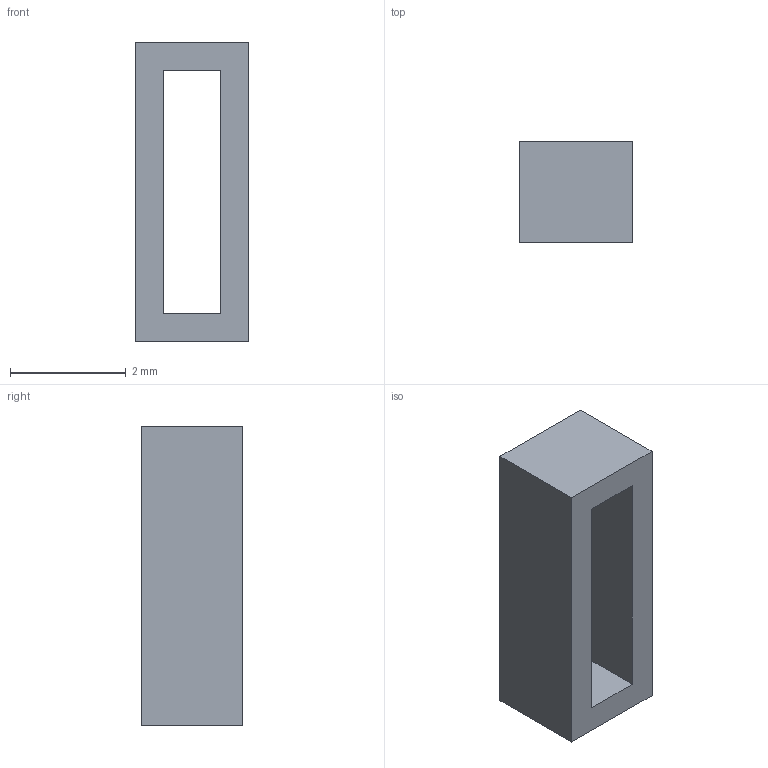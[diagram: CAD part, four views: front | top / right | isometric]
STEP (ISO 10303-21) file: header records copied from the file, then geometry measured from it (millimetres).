
FILE_DESCRIPTION(('Open CASCADE Model'),'2;1');
FILE_NAME('Open CASCADE Shape Model','2026-10-24T17:46:06',('Author'),( 'Open CASCADE'),'Open CASCADE STEP processor 8.0','Open CASCADE 8.0' ,'Unknown');
FILE_SCHEMA(('AUTOMOTIVE_DESIGN { 1 0 10303 214 1 1 1 1 }'));
Length unit declared in the file: millimetre
Products named in the file (1): Open CASCADE STEP translator 8.0 24
Bounding box: 1.96 x 1.75 x 5.16 mm (x, y, z)
Volume: 10.3 mm3; surface area: 54.9 mm2
Topology: 1 solids, 1 shells, 10 faces, 24 edges, 16 vertices
Faces by surface type: plane 10
Entity records: 614 total; most frequent: CARTESIAN_POINT 99, DIRECTION 94, LINE 72, VECTOR 72, ORIENTED_EDGE 48, PCURVE 48, DEFINITIONAL_REPRESENTATION 48, EDGE_CURVE 24
